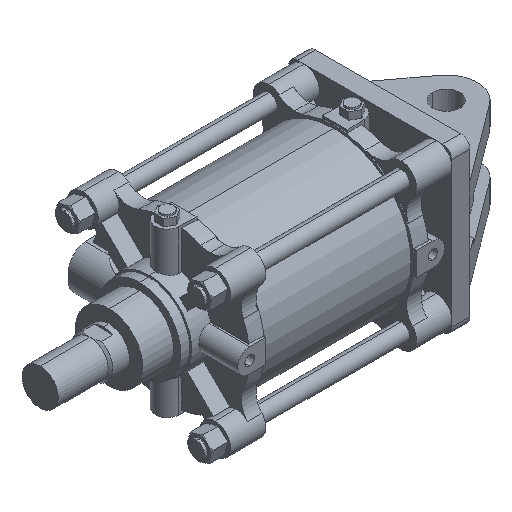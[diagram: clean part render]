
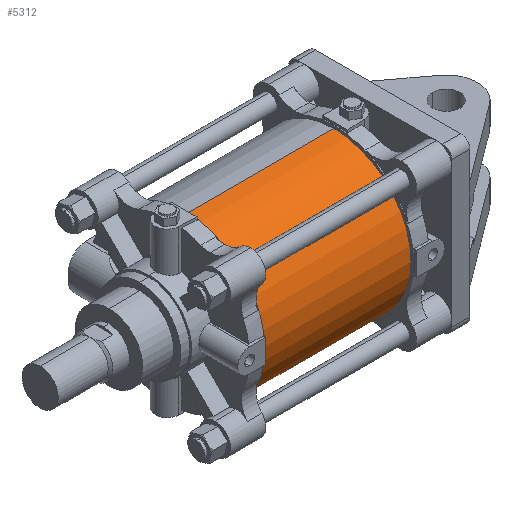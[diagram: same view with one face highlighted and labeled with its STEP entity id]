
A CAD part, isometric view. The second image highlights one B-rep face of the part: STEP entity #5312.
In plain terms, the highlighted cylindrical face has radius 85 mm (diameter 170 mm), a partial arc.
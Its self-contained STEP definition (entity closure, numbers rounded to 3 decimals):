
#309 = ORIENTED_EDGE ( 'NONE', *, *, #9423, .T. ) ;
#311 = CIRCLE ( 'NONE', #9268, 85. ) ;
#780 = ORIENTED_EDGE ( 'NONE', *, *, #9890, .F. ) ;
#879 = ORIENTED_EDGE ( 'NONE', *, *, #10643, .F. ) ;
#1072 = DIRECTION ( 'NONE',  ( -1., 0., 0. ) ) ;
#1518 = LINE ( 'NONE', #8570, #10428 ) ;
#2011 = EDGE_LOOP ( 'NONE', ( #879, #780, #309, #2139 ) ) ;
#2139 = ORIENTED_EDGE ( 'NONE', *, *, #3067, .T. ) ;
#2161 = FACE_OUTER_BOUND ( 'NONE', #2011, .T. ) ;
#3067 = EDGE_CURVE ( 'NONE', #7655, #10073, #4645, .T. ) ;
#3294 = CARTESIAN_POINT ( 'NONE',  ( -82., 0., -85. ) ) ;
#3396 = DIRECTION ( 'NONE',  ( 0., 0., 1. ) ) ;
#3754 = CARTESIAN_POINT ( 'NONE',  ( -82., 0., 85. ) ) ;
#4645 = CIRCLE ( 'NONE', #6271, 85. ) ;
#4922 = VERTEX_POINT ( 'NONE', #8014 ) ;
#5229 = DIRECTION ( 'NONE',  ( -1., 0., 0. ) ) ;
#5312 = ADVANCED_FACE ( 'NONE', ( #2161 ), #10606, .T. ) ;
#5387 = LINE ( 'NONE', #10106, #6477 ) ;
#5870 = CARTESIAN_POINT ( 'NONE',  ( 82., 0., 0. ) ) ;
#5921 = DIRECTION ( 'NONE',  ( -1., 0., 0. ) ) ;
#5928 = DIRECTION ( 'NONE',  ( 0., 0., -1. ) ) ;
#6271 = AXIS2_PLACEMENT_3D ( 'NONE', #6447, #10655, #5928 ) ;
#6425 = AXIS2_PLACEMENT_3D ( 'NONE', #5870, #1072, #3396 ) ;
#6447 = CARTESIAN_POINT ( 'NONE',  ( -82., 0., 0. ) ) ;
#6477 = VECTOR ( 'NONE', #5921, 1000. ) ;
#6805 = DIRECTION ( 'NONE',  ( 1., 0., 0. ) ) ;
#7655 = VERTEX_POINT ( 'NONE', #3754 ) ;
#8014 = CARTESIAN_POINT ( 'NONE',  ( 82., 0., -85. ) ) ;
#8570 = CARTESIAN_POINT ( 'NONE',  ( 82., 0., 85. ) ) ;
#9217 = CARTESIAN_POINT ( 'NONE',  ( 82., 0., 0. ) ) ;
#9268 = AXIS2_PLACEMENT_3D ( 'NONE', #9217, #6805, #9392 ) ;
#9338 = CARTESIAN_POINT ( 'NONE',  ( 82., 0., 85. ) ) ;
#9392 = DIRECTION ( 'NONE',  ( 0., 0., -1. ) ) ;
#9423 = EDGE_CURVE ( 'NONE', #10319, #7655, #1518, .T. ) ;
#9890 = EDGE_CURVE ( 'NONE', #10319, #4922, #311, .T. ) ;
#10073 = VERTEX_POINT ( 'NONE', #3294 ) ;
#10106 = CARTESIAN_POINT ( 'NONE',  ( 82., 0., -85. ) ) ;
#10319 = VERTEX_POINT ( 'NONE', #9338 ) ;
#10428 = VECTOR ( 'NONE', #5229, 1000. ) ;
#10606 = CYLINDRICAL_SURFACE ( 'NONE', #6425, 85. ) ;
#10643 = EDGE_CURVE ( 'NONE', #4922, #10073, #5387, .T. ) ;
#10655 = DIRECTION ( 'NONE',  ( 1., 0., 0. ) ) ;
